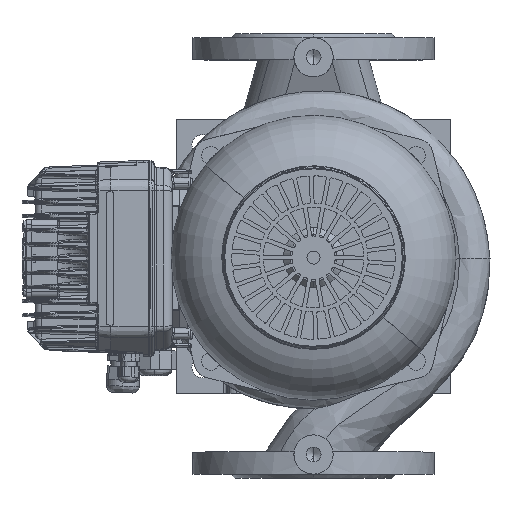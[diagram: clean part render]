
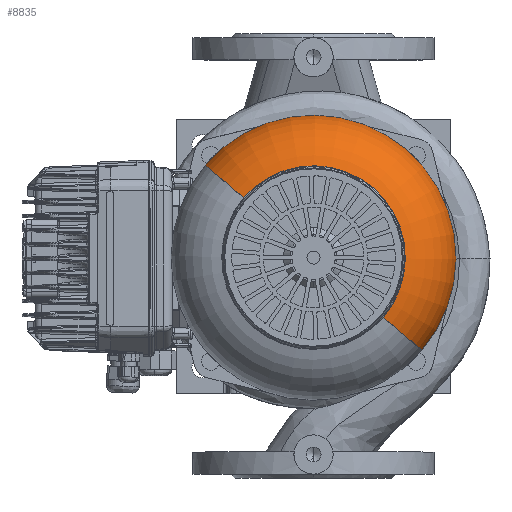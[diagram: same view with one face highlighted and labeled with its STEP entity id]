
A CAD part, top view. The second image highlights one B-rep face of the part: STEP entity #8835.
In plain terms, the highlighted toroidal (fillet/blend) face has major radius 59 mm and minor radius 50 mm.
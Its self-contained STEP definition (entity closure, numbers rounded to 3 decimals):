
#8835=ADVANCED_FACE('NONE',(#21274),#21275,.T.);
#21274=FACE_OUTER_BOUND('',#40827,.T.);
#21275=TOROIDAL_SURFACE('',#40828,59.,50.);
#40827=EDGE_LOOP('',(#113989,#113990,#113991,#113992));
#40828=AXIS2_PLACEMENT_3D('',#113993,#113994,#113995);
#113989=ORIENTED_EDGE('',*,*,#152213,.T.);
#113990=ORIENTED_EDGE('',*,*,#152511,.T.);
#113991=ORIENTED_EDGE('',*,*,#152214,.T.);
#113992=ORIENTED_EDGE('',*,*,#152726,.T.);
#113993=CARTESIAN_POINT('',(-1.849,122.98,390.668));
#113994=DIRECTION('',(0.,0.,1.0));
#113995=DIRECTION('',(-0.76,0.65,0.));
#152213=EDGE_CURVE('',#174701,#174709,#174710,.T.);
#152214=EDGE_CURVE('',#174711,#174705,#174712,.T.);
#152511=EDGE_CURVE('NONE',#174709,#174711,#175233,.T.);
#152726=EDGE_CURVE('NONE',#174705,#174701,#175549,.T.);
#174701=VERTEX_POINT('',#209967);
#174705=VERTEX_POINT('NONE',#209972);
#174709=VERTEX_POINT('NONE',#209977);
#174710=CIRCLE('',#209978,50.);
#174711=VERTEX_POINT('',#209979);
#174712=CIRCLE('',#209980,50.);
#175233=CIRCLE('',#210806,70.229);
#175549=CIRCLE('',#211269,109.);
#209967=CARTESIAN_POINT('',(-84.682,193.83,390.668));
#209972=CARTESIAN_POINT('',(80.984,52.13,390.668));
#209977=CARTESIAN_POINT('',(-55.219,168.629,439.391));
#209978=AXIS2_PLACEMENT_3D('',#294803,#294804,#294805);
#209979=CARTESIAN_POINT('',(51.521,77.331,439.391));
#209980=AXIS2_PLACEMENT_3D('',#294806,#294807,#294808);
#210806=AXIS2_PLACEMENT_3D('',#295270,#295271,#295272);
#211269=AXIS2_PLACEMENT_3D('',#295645,#295646,#295647);
#294803=CARTESIAN_POINT('',(-46.685,161.33,390.668));
#294804=DIRECTION('',(0.65,0.76,0.));
#294805=DIRECTION('',(-0.76,0.65,0.));
#294806=CARTESIAN_POINT('',(42.987,84.63,390.668));
#294807=DIRECTION('',(0.65,0.76,0.));
#294808=DIRECTION('',(0.76,-0.65,0.));
#295270=CARTESIAN_POINT('',(-1.849,122.98,439.391));
#295271=DIRECTION('',(0.,0.,-1.0));
#295272=DIRECTION('',(0.76,-0.65,0.));
#295645=CARTESIAN_POINT('',(-1.849,122.98,390.668));
#295646=DIRECTION('',(0.,0.,1.));
#295647=DIRECTION('',(-0.76,0.65,0.));
